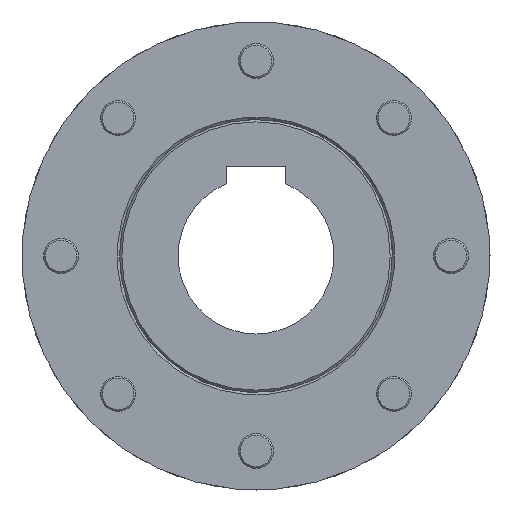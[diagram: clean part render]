
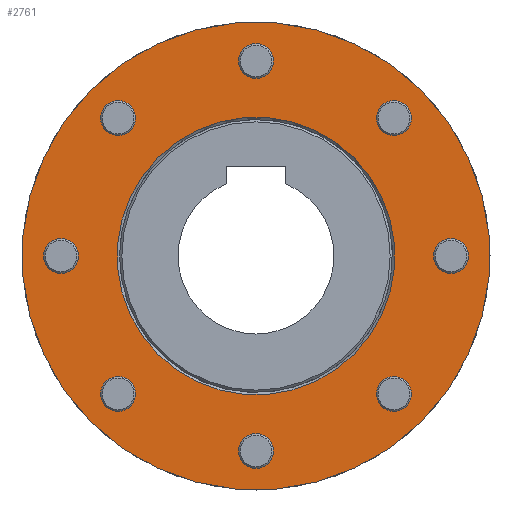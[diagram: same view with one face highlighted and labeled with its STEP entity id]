
A CAD part, left-side view. The second image highlights one B-rep face of the part: STEP entity #2761.
In plain terms, the highlighted planar face has unit normal (-1, 0, 0).
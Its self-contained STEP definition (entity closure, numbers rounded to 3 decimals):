
#361=PLANE('',#2959);
#472=FACE_BOUND('',#803,.T.);
#473=FACE_BOUND('',#804,.T.);
#474=FACE_BOUND('',#805,.T.);
#475=FACE_BOUND('',#806,.T.);
#476=FACE_BOUND('',#807,.T.);
#477=FACE_BOUND('',#808,.T.);
#478=FACE_BOUND('',#809,.T.);
#479=FACE_BOUND('',#810,.T.);
#480=FACE_BOUND('',#811,.T.);
#607=FACE_OUTER_BOUND('',#802,.T.);
#802=EDGE_LOOP('',(#1858));
#803=EDGE_LOOP('',(#1859));
#804=EDGE_LOOP('',(#1860));
#805=EDGE_LOOP('',(#1861));
#806=EDGE_LOOP('',(#1862));
#807=EDGE_LOOP('',(#1863));
#808=EDGE_LOOP('',(#1864));
#809=EDGE_LOOP('',(#1865));
#810=EDGE_LOOP('',(#1866));
#811=EDGE_LOOP('',(#1867));
#1131=CIRCLE('',#2960,60.);
#1132=CIRCLE('',#2961,4.48);
#1133=CIRCLE('',#2962,4.48);
#1134=CIRCLE('',#2963,4.48);
#1135=CIRCLE('',#2964,4.48);
#1136=CIRCLE('',#2965,4.48);
#1137=CIRCLE('',#2966,4.48);
#1138=CIRCLE('',#2967,4.48);
#1139=CIRCLE('',#2968,4.48);
#1140=CIRCLE('',#2969,35.6);
#1273=VERTEX_POINT('',#4097);
#1274=VERTEX_POINT('',#4099);
#1275=VERTEX_POINT('',#4101);
#1276=VERTEX_POINT('',#4103);
#1277=VERTEX_POINT('',#4105);
#1278=VERTEX_POINT('',#4107);
#1279=VERTEX_POINT('',#4109);
#1280=VERTEX_POINT('',#4111);
#1281=VERTEX_POINT('',#4113);
#1282=VERTEX_POINT('',#4115);
#1528=EDGE_CURVE('',#1273,#1273,#1131,.T.);
#1529=EDGE_CURVE('',#1274,#1274,#1132,.T.);
#1530=EDGE_CURVE('',#1275,#1275,#1133,.T.);
#1531=EDGE_CURVE('',#1276,#1276,#1134,.T.);
#1532=EDGE_CURVE('',#1277,#1277,#1135,.T.);
#1533=EDGE_CURVE('',#1278,#1278,#1136,.T.);
#1534=EDGE_CURVE('',#1279,#1279,#1137,.T.);
#1535=EDGE_CURVE('',#1280,#1280,#1138,.T.);
#1536=EDGE_CURVE('',#1281,#1281,#1139,.T.);
#1537=EDGE_CURVE('',#1282,#1282,#1140,.T.);
#1858=ORIENTED_EDGE('',*,*,#1528,.F.);
#1859=ORIENTED_EDGE('',*,*,#1529,.F.);
#1860=ORIENTED_EDGE('',*,*,#1530,.F.);
#1861=ORIENTED_EDGE('',*,*,#1531,.F.);
#1862=ORIENTED_EDGE('',*,*,#1532,.F.);
#1863=ORIENTED_EDGE('',*,*,#1533,.F.);
#1864=ORIENTED_EDGE('',*,*,#1534,.F.);
#1865=ORIENTED_EDGE('',*,*,#1535,.F.);
#1866=ORIENTED_EDGE('',*,*,#1536,.F.);
#1867=ORIENTED_EDGE('',*,*,#1537,.F.);
#2761=ADVANCED_FACE('',(#607,#472,#473,#474,#475,#476,#477,#478,#479,#480),
#361,.F.);
#2959=AXIS2_PLACEMENT_3D('',#4096,#3300,#3301);
#2960=AXIS2_PLACEMENT_3D('',#4098,#3302,#3303);
#2961=AXIS2_PLACEMENT_3D('',#4100,#3304,#3305);
#2962=AXIS2_PLACEMENT_3D('',#4102,#3306,#3307);
#2963=AXIS2_PLACEMENT_3D('',#4104,#3308,#3309);
#2964=AXIS2_PLACEMENT_3D('',#4106,#3310,#3311);
#2965=AXIS2_PLACEMENT_3D('',#4108,#3312,#3313);
#2966=AXIS2_PLACEMENT_3D('',#4110,#3314,#3315);
#2967=AXIS2_PLACEMENT_3D('',#4112,#3316,#3317);
#2968=AXIS2_PLACEMENT_3D('',#4114,#3318,#3319);
#2969=AXIS2_PLACEMENT_3D('',#4116,#3320,#3321);
#3300=DIRECTION('center_axis',(1.,0.,0.));
#3301=DIRECTION('ref_axis',(0.,-0.707,-0.707));
#3302=DIRECTION('center_axis',(1.,0.,0.));
#3303=DIRECTION('ref_axis',(0.,0.707,0.707));
#3304=DIRECTION('center_axis',(-1.,0.,0.));
#3305=DIRECTION('ref_axis',(0.,0.707,-0.707));
#3306=DIRECTION('center_axis',(-1.,0.,0.));
#3307=DIRECTION('ref_axis',(0.,0.,
-1.));
#3308=DIRECTION('center_axis',(-1.,0.,0.));
#3309=DIRECTION('ref_axis',(0.,-0.707,-0.707));
#3310=DIRECTION('center_axis',(-1.,0.,0.));
#3311=DIRECTION('ref_axis',(0.,-1.,0.));
#3312=DIRECTION('center_axis',(-1.,0.,0.));
#3313=DIRECTION('ref_axis',(0.,-0.707,0.707));
#3314=DIRECTION('center_axis',(-1.,0.,0.));
#3315=DIRECTION('ref_axis',(0.,0.,1.));
#3316=DIRECTION('center_axis',(-1.,0.,0.));
#3317=DIRECTION('ref_axis',(0.,0.707,0.707));
#3318=DIRECTION('center_axis',(-1.,0.,0.));
#3319=DIRECTION('ref_axis',(0.,1.,0.));
#3320=DIRECTION('center_axis',(-1.,0.,0.));
#3321=DIRECTION('ref_axis',(0.,0.707,0.707));
#4096=CARTESIAN_POINT('Origin',(-51.,-52.1,52.1));
#4097=CARTESIAN_POINT('',(-51.,-42.426,-42.426));
#4098=CARTESIAN_POINT('Origin',(-51.,0.,0.));
#4099=CARTESIAN_POINT('',(-51.,32.188,38.523));
#4100=CARTESIAN_POINT('Origin',(-51.,35.355,35.355));
#4101=CARTESIAN_POINT('',(-51.,50.,4.48));
#4102=CARTESIAN_POINT('Origin',(-51.,50.,0.));
#4103=CARTESIAN_POINT('',(-51.,38.523,-32.188));
#4104=CARTESIAN_POINT('Origin',(-51.,35.355,-35.355));
#4105=CARTESIAN_POINT('',(-51.,4.48,-50.));
#4106=CARTESIAN_POINT('Origin',(-51.,0.,-50.));
#4107=CARTESIAN_POINT('',(-51.,-32.188,-38.523));
#4108=CARTESIAN_POINT('Origin',(-51.,-35.355,-35.355));
#4109=CARTESIAN_POINT('',(-51.,-50.,-4.48));
#4110=CARTESIAN_POINT('Origin',(-51.,-50.,0.));
#4111=CARTESIAN_POINT('',(-51.,-38.523,32.188));
#4112=CARTESIAN_POINT('Origin',(-51.,-35.355,35.355));
#4113=CARTESIAN_POINT('',(-51.,-4.48,50.));
#4114=CARTESIAN_POINT('Origin',(-51.,0.,50.));
#4115=CARTESIAN_POINT('',(-51.,-25.173,-25.173));
#4116=CARTESIAN_POINT('Origin',(-51.,0.,0.));
